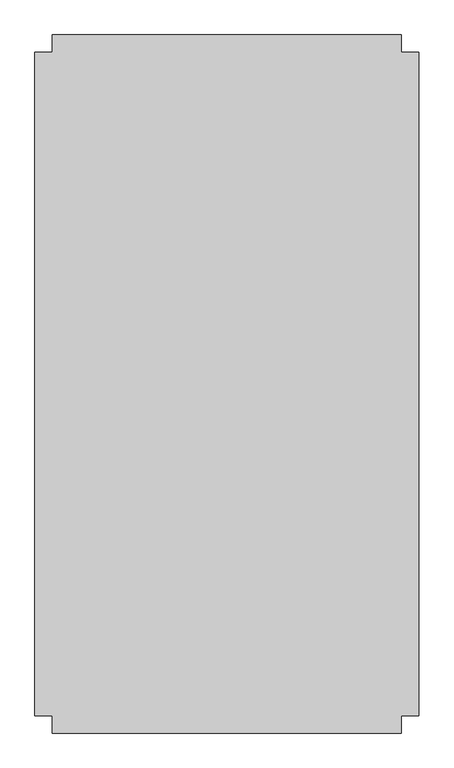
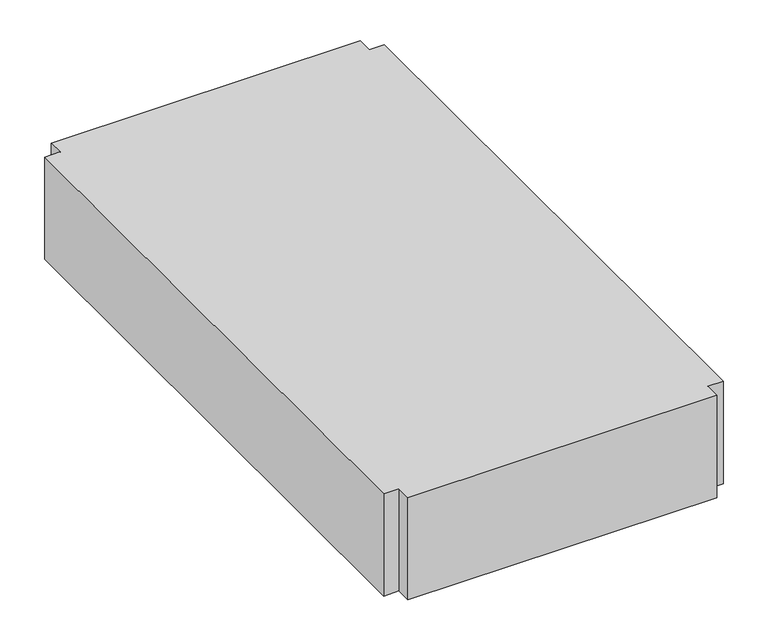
"""IFC4 building model written with IfcOpenShell, lengths in millimetres: duct fitting geometry, M_Cruz rectangular : Estándar."""

from ifc_helpers import new_model, si_unit, frame, origin, place, context, project, spatial, polyline, outline, extrude, source, transform, mapped, element, save


def duct_fitting_7a1702d2(model_context):
    return source(origin(), model_context, "Body", "SweptSolid", [
        extrude(outline(polyline([(250.0, -500.0), (-250.0, -500.0), (-250.0, -475.0), (-275.0, -475.0), (-275.0, 475.0), (-250.0, 475.0), (-250.0, 500.0), (250.0, 500.0), (250.0, 475.0), (275.0, 475.0), (275.0, -475.0), (250.0, -475.0), (250.0, -500.0)])), frame((0.0, 0.0, -87.5), z_axis=(0.0, 0.0, 1.0), x_axis=(1.0, 0.0, 0.0)), (0.0, 0.0, 1.0), 175.0),
    ])


if __name__ == "__main__":
    model = new_model("IFC4")
    model_context = context("Model", 3, world=origin())
    ifc_project = project(units=[si_unit("LENGTHUNIT", "METRE", prefix="MILLI")], contexts=[model_context])
    site = spatial("IfcSite", under=ifc_project)
    building = spatial("IfcBuilding", under=site)
    placement = place(None, origin())
    duct_fitting_shape = duct_fitting_7a1702d2(model_context)
    element("IfcDuctFitting", 1, ObjectType="M_Cruz rectangular : Estándar", at=placement, inside=building, context=model_context, shape_type="MappedRepresentation", body=[
        mapped(duct_fitting_shape, transform((0.0, 0.0, 0.0), x_axis=(1.0, 0.0, 0.0), y_axis=(0.0, 1.0, 0.0), z_axis=(0.0, 0.0, 1.0))),
    ])
    save(model, "model.ifc")
